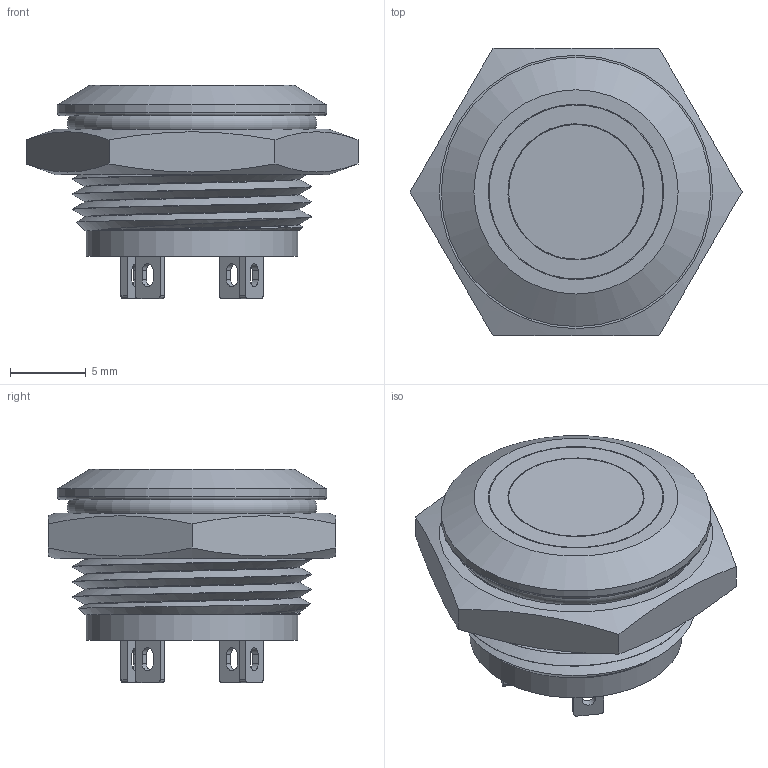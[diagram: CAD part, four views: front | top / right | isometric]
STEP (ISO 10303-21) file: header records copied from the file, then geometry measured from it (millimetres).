
FILE_DESCRIPTION(/* description */ (''),/* implementation_level */ '2;1');
FILE_NAME(/* name */ 'EJ16-271PM.stp',/* time_stamp */ '2019-11-08T13:53:45+08:00',/* author */ (''),/* organization */ (''),/* preprocessor_version */ 'ST-DEVELOPER v11',/* originating_system */ 'SIEMENS UGS NX 6.0',/* authorisation */ '');
FILE_SCHEMA (('CONFIG_CONTROL_DESIGN'));
Length unit declared in the file: millimetre
Products named in the file (8): JH8.683.028; JH7.303.007; JH7.740.176; JH7.810.265; JH7.370.465; JH8.382.294; JH8.382.296; EJ16-271PM
Assembly tree (10 placements, depth 2):
  EJ16-271PM
    JH8.382.296
    JH8.382.294
    JH7.370.465
    JH7.810.265
    JH7.740.176  x4
    JH7.303.007
    JH8.683.028
Bounding box: 21.94 x 19 x 14.1 mm (x, y, z)
Volume: 1195.4 mm3; surface area: 3777.1 mm2
Topology: 9 solids, 10 shells, 269 faces, 689 edges, 455 vertices
Faces by surface type: plane 193, cylinder 49, cone 9, extrusion 8, torus 6, bspline 4
Full cylindrical faces by diameter (mm): 2.2 x2, 2.6 x1, 8.9 x1, 9 x1, 11.5 x1, 11.6 x1, 12.4 x1, 13.2 x1, 13.4 x1, 14 x1, 15.8 x1, 17.8 x1
Entity records: 8169 total; most frequent: CARTESIAN_POINT 2672, ORIENTED_EDGE 916, DIRECTION 873, EDGE_CURVE 458, VERTEX_POINT 312, VECTOR 291, AXIS2_PLACEMENT_3D 291, LINE 283
